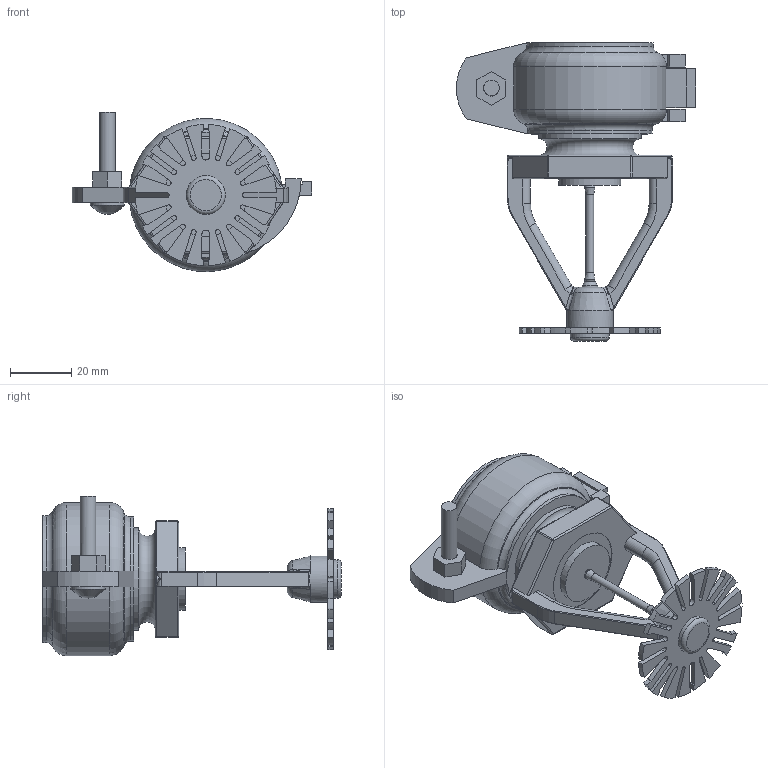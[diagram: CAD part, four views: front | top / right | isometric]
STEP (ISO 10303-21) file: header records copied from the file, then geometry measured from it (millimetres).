
FILE_DESCRIPTION(/* description */ ('VIC SPRINKLER V4806 K22.4 STORAGE ESFR PENDENT FAST RESPONSE w/V9 (IGS)','CAx-IF Rec.Pracs.---Representation and Presentation of Product Manufacturing Information (PMI)---4.0---2014-10-13'),/* implementation_level */ '2;1');
FILE_NAME(/* name */ 'C:\Users\Public\Documents\Victaulic.Temp\A869\Victaulic_FP-Sprinkler_V4806_ST_FR_ESFR Pendent_V9 (IGS)_1 (25).stp',/* time_stamp */ '2023-02-08T08:18:07+01:00',/* author */ ('vjadhav'),/* organization */ ('Victaulic'),/* preprocessor_version */ 'ST-DEVELOPER v18.1',/* originating_system */ 'Autodesk Inventor 2020',/* authorisation */ '');
FILE_SCHEMA (('AP242_MANAGED_MODEL_BASED_3D_ENGINEERING_MIM_LF { 1 0 10303 442 1 1 4 }'));
Length unit declared in the file: inch
Products named in the file (3): V4806-01.0; V4806-01.0_1; V9-01.0x01.0
Assembly tree (2 placements, depth 2):
  V4806-01.0
    V4806-01.0_1
    V9-01.0x01.0
Bounding box: 78.09 x 97.35 x 52.01 mm (x, y, z)
Volume: 39778.4 mm3; surface area: 30873.5 mm2
Topology: 2 solids, 3 shells, 333 faces, 887 edges, 572 vertices
Faces by surface type: plane 136, cylinder 125, torus 30, bspline 24, sphere 10, cone 8
Full cylindrical faces by diameter (mm): 2.54 x1, 5.08 x2, 6.35 x1, 7.62 x1, 11.112 x1, 12.7 x1, 15.24 x1, 20.32 x1, 26.645 x1, 26.987 x2, 30.861 x1, 33.401 x4, 36.703 x1, 37.465 x1, 45.974 x2
Entity records: 11935 total; most frequent: CARTESIAN_POINT 2890, DIRECTION 1866, ORIENTED_EDGE 1768, EDGE_CURVE 884, AXIS2_PLACEMENT_3D 708, VERTEX_POINT 572, LINE 450, VECTOR 450
